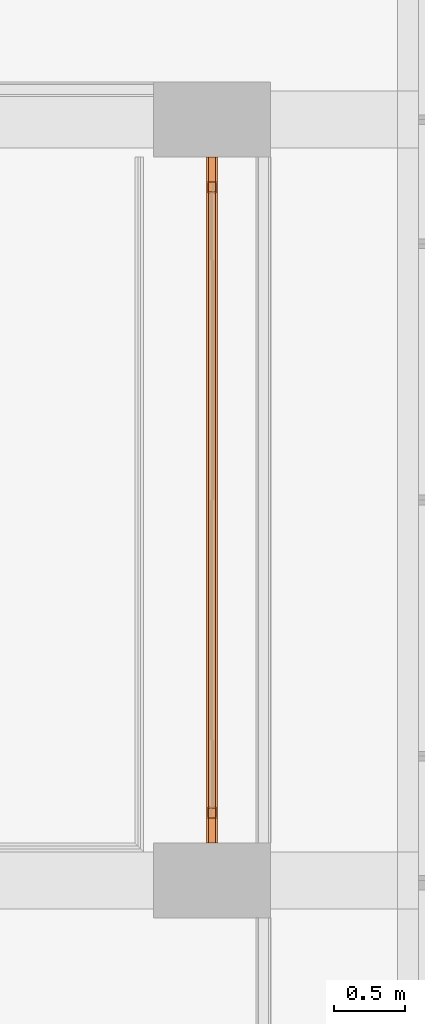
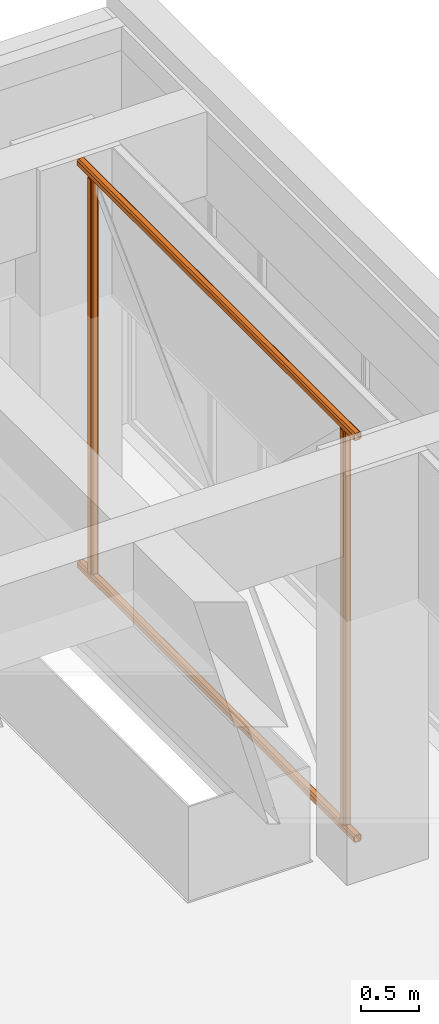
# One storey, part 108 of 117: 4 proxies.
"""IFC2X3 building model written with IfcOpenShell, lengths in millimetres."""

from ifc_helpers import new_model, entity, si_unit, converted_unit, derived_unit, money_unit, direction, frame, origin_with_axes, place, context, subcontext, project, spatial, faceted_brep, source, transform, mapped, material, type_object, type_shapes, element, save


model = new_model("IFC2X3")

# Units and contexts
model_context = context("Model", 3, precision=0.01, world=origin_with_axes(), true_north=direction((0.0, 1.0)))
body_context = subcontext(model_context, "Body", "Model", "MODEL_VIEW")
ifc_project = project(units=[si_unit("LENGTHUNIT", "METRE", prefix="MILLI"), si_unit("AREAUNIT", "SQUARE_METRE"), si_unit("VOLUMEUNIT", "CUBIC_METRE"), converted_unit("PLANEANGLEUNIT", "DEGREE", entity("IfcPlaneAngleMeasure", 0.0174532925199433), si_unit("PLANEANGLEUNIT", "RADIAN"), dimensions=[0, 0, 0, 0, 0, 0, 0]), money_unit("EUR"), converted_unit("TIMEUNIT", "Year", entity("IfcTimeMeasure", 31557600.0), si_unit("TIMEUNIT", "SECOND"), dimensions=[0, 0, 1, 0, 0, 0, 0]), si_unit("MASSUNIT", "GRAM", prefix="KILO"), si_unit("THERMODYNAMICTEMPERATUREUNIT", "DEGREE_CELSIUS"), si_unit("LUMINOUSINTENSITYUNIT", "LUMEN"), si_unit("ENERGYUNIT", "JOULE", prefix="MEGA"), derived_unit("THERMALCONDUCTANCEUNIT", [(si_unit("POWERUNIT", "WATT"), 1), (si_unit("LENGTHUNIT", "METRE"), -1), (si_unit("THERMODYNAMICTEMPERATUREUNIT", "KELVIN"), -1)]), derived_unit("SPECIFICHEATCAPACITYUNIT", [(si_unit("ENERGYUNIT", "JOULE"), 1), (si_unit("MASSUNIT", "GRAM", prefix="KILO"), -1), (si_unit("THERMODYNAMICTEMPERATUREUNIT", "KELVIN"), -1)]), derived_unit("MASSDENSITYUNIT", [(si_unit("MASSUNIT", "GRAM", prefix="KILO"), 1), (si_unit("VOLUMEUNIT", "CUBIC_METRE"), -1)])], contexts=[model_context])

# Site, building, storey
site_placement = place(None, origin_with_axes())
site = spatial("IfcSite", under=ifc_project, at=site_placement, Name="Site", CompositionType="ELEMENT")
building_placement = place(site_placement, origin_with_axes())
building = spatial("IfcBuilding", under=site, at=building_placement, Name="Naam gebouw", CompositionType="ELEMENT")
storey_placement = place(building_placement, frame((0.0, 0.0, 4150.0), z_axis=(0.0, 0.0, 1.0), x_axis=(1.0, 0.0, 0.0)))
storey = spatial("IfcBuildingStorey", under=building, at=storey_placement, Name="1e verdieping N", CompositionType="ELEMENT", Elevation=4150.0)

# Proxies
ifc_material = material(Name="Metaal - Staal AFW")
building_element_proxy_type_1 = type_object("IfcBuildingElementProxyType", Name="Buis vk warmgew balk 27", PredefinedType="NOTDEFINED")
shared_shape_1 = source(origin_with_axes(), body_context, "Body", "Brep", [
    faceted_brep([(0.0, -24.0, 0.0), (-4804.999999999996, -24.00000000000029, 0.0), (-4804.999999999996, 23.99999999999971, 0.0), (0.0, 24.0, 0.0), (0.0, -40.0, 16.0), (-4804.999999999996, -40.00000000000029, 16.00000000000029), (-4804.999999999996, -40.0000000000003, 64.0000000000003), (-4804.999999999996, -24.00000000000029, 80.0000000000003), (-4804.999999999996, 23.99999999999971, 80.0000000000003), (-4804.999999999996, 39.99999999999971, 64.0000000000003), (-4804.999999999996, 39.99999999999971, 16.00000000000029), (-4804.999999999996, -24.00000000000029, 8.000000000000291), (-4804.999999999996, 23.99999999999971, 8.000000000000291), (-4804.999999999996, 31.99999999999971, 16.00000000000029), (-4804.999999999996, 31.99999999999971, 64.0000000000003), (-4804.999999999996, 23.99999999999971, 72.00000000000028), (-4804.999999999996, -24.00000000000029, 72.00000000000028), (-4804.999999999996, -32.00000000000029, 64.0000000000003), (-4804.999999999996, -32.00000000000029, 16.00000000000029), (0.0, 40.0, 16.0), (0.0, 40.0, 64.0), (0.0, 24.0, 80.0), (0.0, -24.0, 80.0), (0.0, -40.00000000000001, 64.0), (0.0, -24.0, 8.0), (0.0, -32.0, 16.0), (0.0, -32.0, 64.0), (0.0, -24.0, 72.00000000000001), (0.0, 24.0, 72.00000000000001), (0.0, 32.0, 64.0), (0.0, 32.0, 16.0), (0.0, 24.0, 8.0)], [[[0, 1, 2, 3]], [[4, 5, 1, 0]], [[1, 5, 6, 7, 8, 9, 10, 2], [11, 12, 13, 14, 15, 16, 17, 18]], [[3, 2, 10, 19]], [[0, 3, 19, 20, 21, 22, 23, 4], [24, 25, 26, 27, 28, 29, 30, 31]], [[23, 6, 5, 4]], [[22, 7, 6, 23]], [[21, 8, 7, 22]], [[20, 9, 8, 21]], [[19, 10, 9, 20]], [[31, 12, 11, 24]], [[30, 13, 12, 31]], [[29, 14, 13, 30]], [[28, 15, 14, 29]], [[27, 16, 15, 28]], [[26, 17, 16, 27]], [[25, 18, 17, 26]], [[24, 11, 18, 25]]]),
])
type_shapes(building_element_proxy_type_1, [shared_shape_1])
for number, where, z_axis, x_axis, name in (
    (1, (28605.99999999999, 49538.4124251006, 4260.0), (0.0, 0.0, 1.0), (0.0, -1.0, 0.0), "_Boom-x"),
    (2, (28605.99999999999, 49538.4124251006, 0.0), (0.0, 0.0, 1.0), (0.0, -1.0, 0.0), "_Boom-x"),
):
    element("IfcBuildingElementProxy", number, at=place(storey_placement, frame(where, z_axis=z_axis, x_axis=x_axis)), inside=storey, type_object=building_element_proxy_type_1, material=ifc_material, Name=name, context=body_context, shape_type="MappedRepresentation", body=[
        mapped(shared_shape_1, transform((0.0, 0.0, 0.0))),
    ])
building_element_proxy_type_2 = type_object("IfcBuildingElementProxyType", Name="Buis vk warmgew kolom 27", PredefinedType="NOTDEFINED")
shared_shape_2 = source(origin_with_axes(), body_context, "Body", "Brep", [
    faceted_brep([(24.0, -40.0, 0.0), (24.0, -40.0, 4180.0), (-24.0, -40.0, 4180.0), (-24.0, -40.0, 0.0), (35.31370849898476, -35.31370849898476, 0.0), (35.31370849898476, -35.31370849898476, 4180.0), (40.0, -24.0, 4180.0), (40.00000000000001, 24.0, 4180.0), (35.31370849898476, 35.31370849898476, 4180.0), (24.0, 40.0, 4180.0), (-24.0, 40.00000000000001, 4180.0), (-35.31370849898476, 35.31370849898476, 4180.0), (-40.0, 24.0, 4180.0), (-40.0, -24.0, 4180.0), (-35.31370849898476, -35.31370849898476, 4180.0), (24.0, -32.0, 4180.0), (-24.0, -32.0, 4180.0), (-29.65685424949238, -29.65685424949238, 4180.0), (-32.0, -24.0, 4180.0), (-32.0, 24.0, 4180.0), (-29.65685424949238, 29.65685424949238, 4180.0), (-24.0, 32.0, 4180.0), (24.0, 32.0, 4180.0), (29.65685424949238, 29.65685424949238, 4180.0), (32.0, 24.0, 4180.0), (32.0, -24.0, 4180.0), (29.65685424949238, -29.65685424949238, 4180.0), (-35.31370849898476, -35.31370849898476, 0.0), (-40.0, -24.0, 0.0), (-40.0, 24.0, 0.0), (-35.31370849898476, 35.31370849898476, 0.0), (-24.0, 40.00000000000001, 0.0), (24.0, 40.0, 0.0), (35.31370849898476, 35.31370849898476, 0.0), (40.00000000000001, 24.0, 0.0), (40.0, -24.0, 0.0), (24.0, -32.0, 0.0), (29.65685424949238, -29.65685424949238, 0.0), (32.0, -24.0, 0.0), (32.0, 24.0, 0.0), (29.65685424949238, 29.65685424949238, 0.0), (24.0, 32.0, 0.0), (-24.0, 32.0, 0.0), (-29.65685424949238, 29.65685424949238, 0.0), (-32.0, 24.0, 0.0), (-32.0, -24.0, 0.0), (-29.65685424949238, -29.65685424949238, 0.0), (-24.0, -32.0, 0.0)], [[[0, 1, 2, 3]], [[4, 5, 1, 0]], [[1, 5, 6, 7, 8, 9, 10, 11, 12, 13, 14, 2], [15, 16, 17, 18, 19, 20, 21, 22, 23, 24, 25, 26]], [[3, 2, 14, 27]], [[0, 3, 27, 28, 29, 30, 31, 32, 33, 34, 35, 4], [36, 37, 38, 39, 40, 41, 42, 43, 44, 45, 46, 47]], [[35, 6, 5, 4]], [[34, 7, 6, 35]], [[33, 8, 7, 34]], [[32, 9, 8, 33]], [[31, 10, 9, 32]], [[30, 11, 10, 31]], [[29, 12, 11, 30]], [[28, 13, 12, 29]], [[27, 14, 13, 28]], [[47, 16, 15, 36]], [[46, 17, 16, 47]], [[45, 18, 17, 46]], [[44, 19, 18, 45]], [[43, 20, 19, 44]], [[42, 21, 20, 43]], [[41, 22, 21, 42]], [[40, 23, 22, 41]], [[39, 24, 23, 40]], [[38, 25, 24, 39]], [[37, 26, 25, 38]], [[36, 15, 26, 37]]]),
])
type_shapes(building_element_proxy_type_2, [shared_shape_2])
for number, where, z_axis, x_axis, name in (
    (3, (28605.99999999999, 54133.41242510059, 80.00000000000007), (0.0, 0.0, 1.0), (0.0, -1.0, 0.0), "_Boom-x"),
    (4, (28605.99999999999, 49748.41242510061, 80.00000000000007), (0.0, 0.0, 1.0), (0.0, -1.0, 0.0), "_Boom-x"),
):
    element("IfcBuildingElementProxy", number, at=place(storey_placement, frame(where, z_axis=z_axis, x_axis=x_axis)), inside=storey, type_object=building_element_proxy_type_2, material=ifc_material, Name=name, context=body_context, shape_type="MappedRepresentation", body=[
        mapped(shared_shape_2, transform((0.0, 0.0, 0.0))),
    ])

save(model, "model.ifc")
